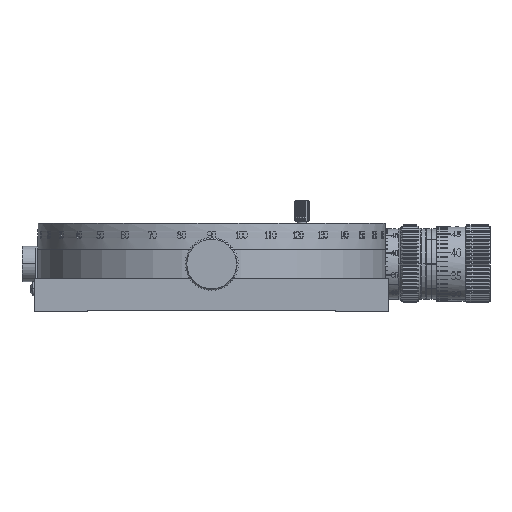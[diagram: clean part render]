
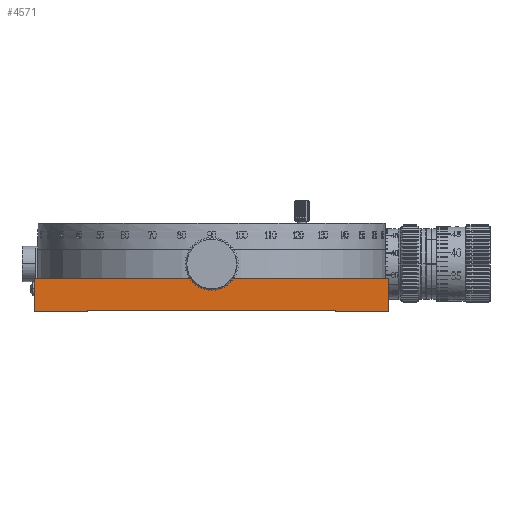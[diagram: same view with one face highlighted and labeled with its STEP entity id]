
A CAD part, left-side view. The second image highlights one B-rep face of the part: STEP entity #4571.
In plain terms, the highlighted planar face has unit normal (-1, 0, 0).
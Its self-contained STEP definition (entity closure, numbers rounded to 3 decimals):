
#4571=ADVANCED_FACE('',(#49781),#49780,.T.);
#49780=PLANE('',#76216);
#49781=FACE_OUTER_BOUND('',#76217,.T.);
#76213=CARTESIAN_POINT('',(-50.,60.,-0.95));
#76214=DIRECTION('',(-1.,0.,0.));
#76215=DIRECTION('',(0.,-1.,0.));
#76216=AXIS2_PLACEMENT_3D('',#76213,#76214,#76215);
#76217=EDGE_LOOP('',(#102614,#102615,#102616,#102617,#102618,#102619,#102620,#102621));
#102614=ORIENTED_EDGE('',*,*,#119799,.F.);
#102615=ORIENTED_EDGE('',*,*,#119872,.T.);
#102616=ORIENTED_EDGE('',*,*,#112950,.F.);
#102617=ORIENTED_EDGE('',*,*,#112914,.F.);
#102618=ORIENTED_EDGE('',*,*,#112953,.T.);
#102619=ORIENTED_EDGE('',*,*,#119877,.T.);
#102620=ORIENTED_EDGE('',*,*,#119806,.T.);
#102621=ORIENTED_EDGE('',*,*,#119810,.F.);
#112914=EDGE_CURVE('',#164802,#164809,#164810,.T.);
#112950=EDGE_CURVE('',#164809,#165029,#165057,.T.);
#112953=EDGE_CURVE('',#164802,#165071,#165078,.T.);
#119799=EDGE_CURVE('',#210744,#210745,#210746,.T.);
#119806=EDGE_CURVE('',#210791,#210784,#210792,.T.);
#119810=EDGE_CURVE('',#210745,#210784,#210818,.T.);
#119872=EDGE_CURVE('',#210744,#165029,#211240,.T.);
#119877=EDGE_CURVE('',#165071,#210791,#211274,.T.);
#164802=VERTEX_POINT('',#237986);
#164809=VERTEX_POINT('',#237990);
#164810=LINE('',#237991,#237992);
#165029=VERTEX_POINT('',#238123);
#165057=LINE('',#238139,#238140);
#165071=VERTEX_POINT('',#238147);
#165078=LINE('',#238151,#238152);
#210744=VERTEX_POINT('',#267898);
#210745=VERTEX_POINT('',#267899);
#210746=LINE('',#267900,#267901);
#210784=VERTEX_POINT('',#267920);
#210791=VERTEX_POINT('',#267924);
#210792=LINE('',#267925,#267926);
#210818=LINE('',#267939,#267940);
#211240=LINE('',#268222,#268223);
#211274=LINE('',#268245,#268246);
#237986=CARTESIAN_POINT('',(-50.,50.,9.5));
#237990=CARTESIAN_POINT('',(-50.,-50.,9.5));
#237991=CARTESIAN_POINT('',(-50.,50.,9.5));
#237992=VECTOR('',#237993,100.);
#237993=DIRECTION('',(0.,-1.,0.));
#238123=CARTESIAN_POINT('',(-50.,-50.,0.));
#238139=CARTESIAN_POINT('',(-50.,-50.,9.5));
#238140=VECTOR('',#238141,9.5);
#238141=DIRECTION('',(0.,0.,-1.));
#238147=CARTESIAN_POINT('',(-50.,50.,0.));
#238151=CARTESIAN_POINT('',(-50.,50.,9.5));
#238152=VECTOR('',#238153,9.5);
#238153=DIRECTION('',(0.,0.,-1.));
#267898=CARTESIAN_POINT('',(-50.,-35.,0.));
#267899=CARTESIAN_POINT('',(-50.,-35.,0.5));
#267900=CARTESIAN_POINT('',(-50.,-35.,0.));
#267901=VECTOR('',#267902,0.5);
#267902=DIRECTION('',(0.,0.,1.));
#267920=CARTESIAN_POINT('',(-50.,35.,0.5));
#267924=CARTESIAN_POINT('',(-50.,35.,0.));
#267925=CARTESIAN_POINT('',(-50.,35.,0.));
#267926=VECTOR('',#267927,0.5);
#267927=DIRECTION('',(0.,0.,1.));
#267939=CARTESIAN_POINT('',(-50.,-35.,0.5));
#267940=VECTOR('',#267941,70.);
#267941=DIRECTION('',(0.,1.,0.));
#268222=CARTESIAN_POINT('',(-50.,-35.,0.));
#268223=VECTOR('',#268224,15.);
#268224=DIRECTION('',(0.,-1.,0.));
#268245=CARTESIAN_POINT('',(-50.,50.,0.));
#268246=VECTOR('',#268247,15.);
#268247=DIRECTION('',(0.,-1.,0.));
